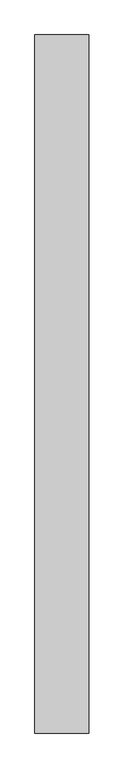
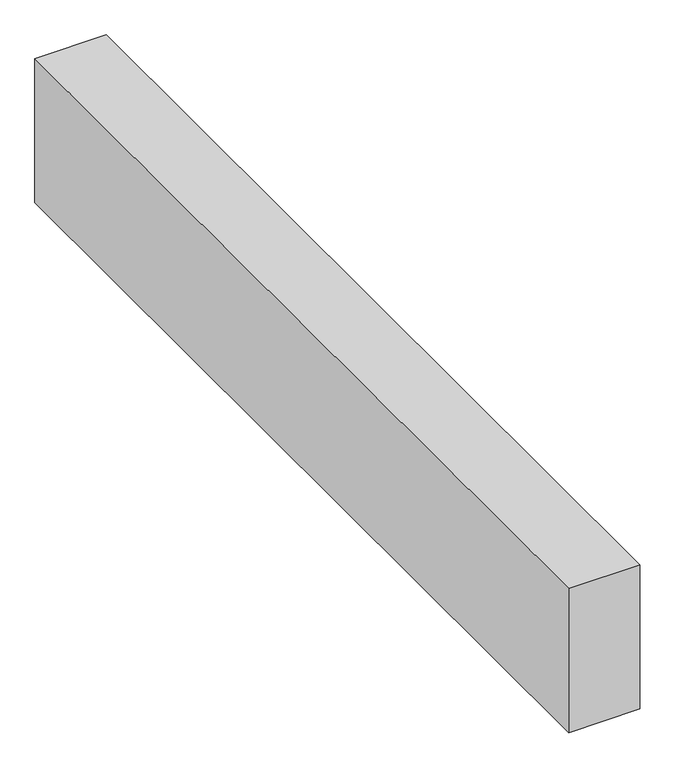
"""IFC4 building model written with IfcOpenShell, lengths in millimetres: proxy geometry."""

from ifc_helpers import new_model, si_unit, frame, origin, place, context, project, spatial, polyline, outline, extrude, source, transform, mapped, element, save


def structural_framing_c48de238(model_context):
    return source(origin(), model_context, "Body", "SweptSolid", [
        extrude(outline(polyline([(70.0, -908.15), (-70.0, -908.15), (-70.0, 908.15), (70.0, 908.15), (70.0, -908.15)])), frame((0.0, 0.0, -300.0), z_axis=(0.0, 0.0, 1.0), x_axis=(1.0, 0.0, 0.0)), (0.0, 0.0, 1.0), 300.0),
    ])


if __name__ == "__main__":
    model = new_model("IFC4")
    model_context = context("Model", 3, world=origin())
    ifc_project = project(units=[si_unit("LENGTHUNIT", "METRE", prefix="MILLI")], contexts=[model_context])
    site = spatial("IfcSite", under=ifc_project)
    building = spatial("IfcBuilding", under=site)
    placement = place(None, origin())
    structural_framing_shape = structural_framing_c48de238(model_context)
    element("IfcBuildingElementProxy", 1, Name="Structural Framing", at=placement, inside=building, context=model_context, shape_type="MappedRepresentation", body=[
        mapped(structural_framing_shape, transform((0.0, 0.0, 0.0), x_axis=(1.0, 0.0, 0.0), y_axis=(0.0, 1.0, 0.0), z_axis=(0.0, 0.0, 1.0))),
    ])
    save(model, "model.ifc")
